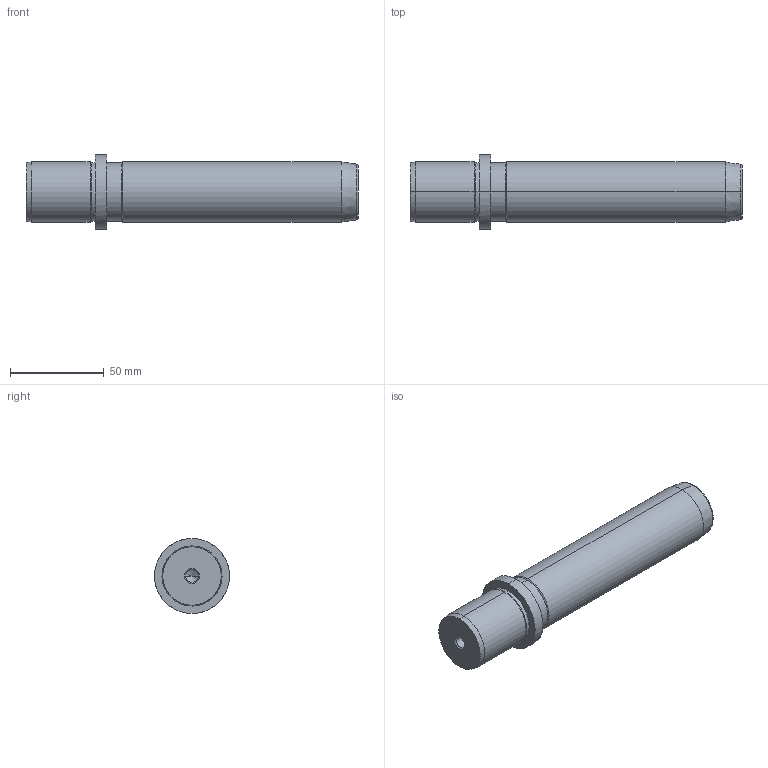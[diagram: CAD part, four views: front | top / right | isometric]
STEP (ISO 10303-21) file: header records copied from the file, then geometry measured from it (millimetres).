
FILE_DESCRIPTION(('CATIA V5 STEP Exchange'),'2;1');
FILE_NAME('C:\Users\Utente\Desktop\IO LAVORO\3D X SITO CF\X SITO\719\719-32x140.stp','2021-01-03T15:53:23+00:00',('none'),('none'),'CATIA Version 5 Release 20 GA (IN-10)','CATIA V5 STEP AP203','none');
FILE_SCHEMA(('CONFIG_CONTROL_DESIGN'));
Length unit declared in the file: millimetre
Products named in the file (1): 719-32x140
Bounding box: 177 x 40 x 40 mm (x, y, z)
Volume: 142182.9 mm3; surface area: 21333.9 mm2
Topology: 1 solids, 1 shells, 36 faces, 100 edges, 66 vertices
Faces by surface type: cone 16, cylinder 14, plane 4, torus 2
Entity records: 1270 total; most frequent: CARTESIAN_POINT 339, ORIENTED_EDGE 192, DIRECTION 158, EDGE_CURVE 96, AXIS2_PLACEMENT_3D 93, VERTEX_POINT 66, CIRCLE 56, EDGE_LOOP 40
